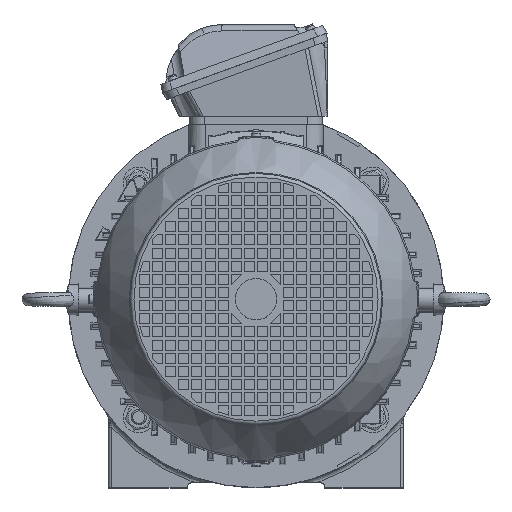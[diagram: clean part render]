
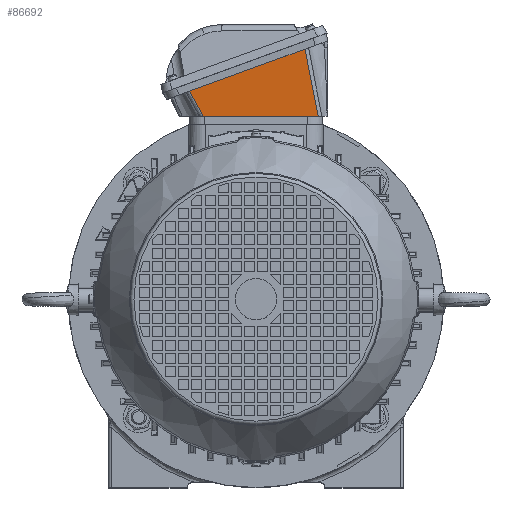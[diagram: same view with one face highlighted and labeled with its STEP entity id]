
A CAD part, top view. The second image highlights one B-rep face of the part: STEP entity #86692.
In plain terms, the highlighted planar face has unit normal (0.036, -0.098, 0.995).
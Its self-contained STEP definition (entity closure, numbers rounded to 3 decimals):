
#2523=B_SPLINE_CURVE_WITH_KNOTS('',3,(#148363,#148364,#148365,#148366),
 .UNSPECIFIED.,.F.,.F.,(4,4),(0.,0.023),.UNSPECIFIED.);
#2524=B_SPLINE_CURVE_WITH_KNOTS('',3,(#148367,#148368,#148369,#148370,#148371,
#148372,#148373,#148374,#148375,#148376,#148377,#148378,#148379),
 .UNSPECIFIED.,.F.,.F.,(4,3,3,3,4),(0.,0.027,0.027,
0.05,0.055),.UNSPECIFIED.);
#14021=LINE('',#148265,#20838);
#14025=LINE('',#148362,#20842);
#20838=VECTOR('',#106784,1000.);
#20842=VECTOR('',#106798,1000.);
#26051=FACE_OUTER_BOUND('',#31213,.T.);
#31213=EDGE_LOOP('',(#68865,#68866,#68867,#68868));
#40654=VERTEX_POINT('',#148263);
#40655=VERTEX_POINT('',#148264);
#40670=VERTEX_POINT('',#148360);
#40671=VERTEX_POINT('',#148361);
#50656=EDGE_CURVE('',#40654,#40655,#14021,.T.);
#50672=EDGE_CURVE('',#40670,#40671,#14025,.T.);
#50673=EDGE_CURVE('',#40671,#40655,#2523,.T.);
#50674=EDGE_CURVE('',#40654,#40670,#2524,.T.);
#68865=ORIENTED_EDGE('',*,*,#50672,.T.);
#68866=ORIENTED_EDGE('',*,*,#50673,.T.);
#68867=ORIENTED_EDGE('',*,*,#50656,.F.);
#68868=ORIENTED_EDGE('',*,*,#50674,.T.);
#83420=PLANE('',#92325);
#86692=ADVANCED_FACE('',(#26051),#83420,.T.);
#92325=AXIS2_PLACEMENT_3D('',#148359,#106796,#106797);
#106784=DIRECTION('',(-0.999,0.,0.036));
#106796=DIRECTION('center_axis',(0.036,-0.098,
0.995));
#106797=DIRECTION('ref_axis',(0.,0.995,0.098));
#106798=DIRECTION('',(-0.94,-0.342,0.));
#148263=CARTESIAN_POINT('',(49.714,146.5,313.598));
#148264=CARTESIAN_POINT('',(-41.969,146.5,316.894));
#148265=CARTESIAN_POINT('',(52.77,146.5,313.489));
#148359=CARTESIAN_POINT('Origin',(53.,211.5,319.9));
#148360=CARTESIAN_POINT('',(39.196,200.091,319.269));
#148361=CARTESIAN_POINT('',(-53.103,166.497,319.269));
#148362=CARTESIAN_POINT('',(55.052,205.862,319.269));
#148363=CARTESIAN_POINT('Ctrl Pts',(-53.103,166.497,
319.269));
#148364=CARTESIAN_POINT('Ctrl Pts',(-49.364,159.847,
318.478));
#148365=CARTESIAN_POINT('Ctrl Pts',(-45.658,153.178,
317.686));
#148366=CARTESIAN_POINT('Ctrl Pts',(-41.969,146.5,316.894));
#148367=CARTESIAN_POINT('Ctrl Pts',(49.714,146.5,313.598));
#148368=CARTESIAN_POINT('Ctrl Pts',(47.933,155.339,314.535));
#148369=CARTESIAN_POINT('Ctrl Pts',(46.165,164.18,315.472));
#148370=CARTESIAN_POINT('Ctrl Pts',(44.422,173.026,316.409));
#148371=CARTESIAN_POINT('Ctrl Pts',(44.406,173.111,316.417));
#148372=CARTESIAN_POINT('Ctrl Pts',(44.389,173.195,316.426));
#148373=CARTESIAN_POINT('Ctrl Pts',(44.373,173.279,316.435));
#148374=CARTESIAN_POINT('Ctrl Pts',(42.919,180.657,317.216));
#148375=CARTESIAN_POINT('Ctrl Pts',(41.482,188.038,317.997));
#148376=CARTESIAN_POINT('Ctrl Pts',(40.078,195.426,318.777));
#148377=CARTESIAN_POINT('Ctrl Pts',(39.782,196.981,318.941));
#148378=CARTESIAN_POINT('Ctrl Pts',(39.488,198.535,319.105));
#148379=CARTESIAN_POINT('Ctrl Pts',(39.196,200.091,319.269));
